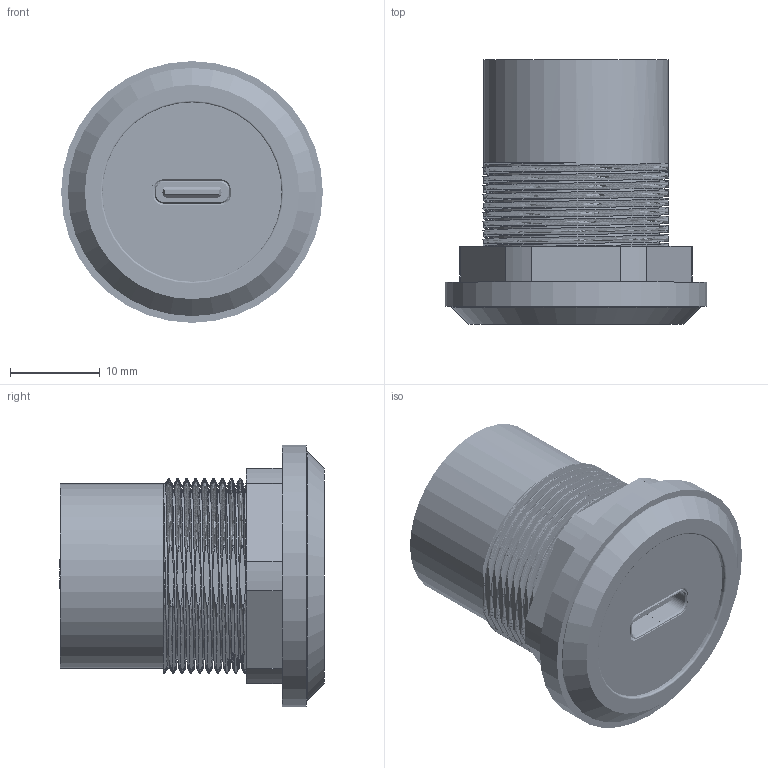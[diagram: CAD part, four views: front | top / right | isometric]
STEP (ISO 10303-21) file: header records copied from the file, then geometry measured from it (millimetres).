
FILE_DESCRIPTION(('FreeCAD Model'),'2;1');
FILE_NAME('Open CASCADE Shape Model','2024-03-25T13:36:51',(''),(''), 'Open CASCADE STEP processor 7.6','FreeCAD','Unknown');
FILE_SCHEMA(('AUTOMOTIVE_DESIGN { 1 0 10303 214 1 1 1 1 }'));
Length unit declared in the file: millimetre
Products named in the file (6): Unnamed; 49195_Connector; 49195_USB-C_female_back; 49195_USB-C_female_front; 49195_Rubber O-ring; 49195_Coupling_nut
Assembly tree (5 placements, depth 2):
  Unnamed
    49195_Connector
    49195_USB-C_female_back
    49195_USB-C_female_front
    49195_Rubber O-ring
    49195_Coupling_nut
Bounding box: 29.2 x 29.54 x 29.2 mm (x, y, z)
Volume: 2383.3 mm3; surface area: 9538.7 mm2
Topology: 4 solids, 5 shells, 1167 faces, 3027 edges, 1941 vertices
Faces by surface type: plane 907, cylinder 188, cone 33, bspline 21, torus 18
Full cylindrical faces by diameter (mm): 18.6 x1, 20 x1, 20.6 x1, 25.6 x1, 27.7 x1, 29.2 x1
Entity records: 258062 total; most frequent: CARTESIAN_POINT 230157, ORIENTED_EDGE 5980, DIRECTION 5271, EDGE_CURVE 3021, LINE 2117, VECTOR 2117, VERTEX_POINT 1939, AXIS2_PLACEMENT_3D 1577
